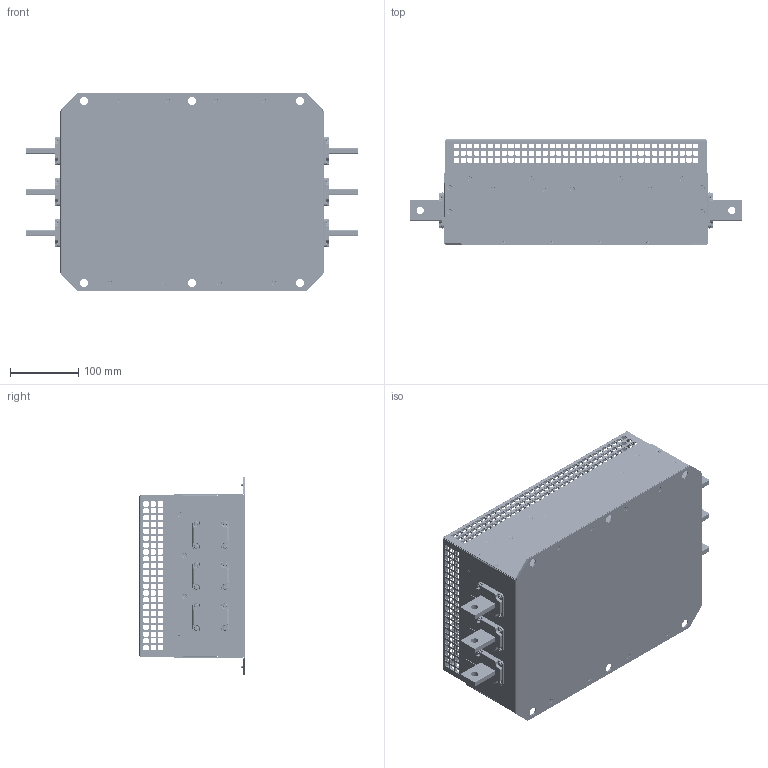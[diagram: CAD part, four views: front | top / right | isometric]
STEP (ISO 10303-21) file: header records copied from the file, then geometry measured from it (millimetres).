
FILE_DESCRIPTION((''),'2;1');
FILE_NAME('PRT0006','2021-01-20T',('EB4310'),(''),'CREO PARAMETRIC BY PTC INC, 2018220','CREO PARAMETRIC BY PTC INC, 2018220','');
FILE_SCHEMA(('AUTOMOTIVE_DESIGN { 1 0 10303 214 1 1 1 1 }'));
Products named in the file (1): PRT0006
Bounding box: 485 x 154.2 x 290 mm (x, y, z)
Volume: 544088.8 mm3; surface area: 790070.7 mm2
Topology: 1 solids, 47 shells, 12630 faces, 34620 edges, 22340 vertices
Faces by surface type: cylinder 5896, plane 5238, torus 1112, cone 280, bspline 104
Entity records: 516282 total; most frequent: CARTESIAN_POINT 76708, DIRECTION 72872, ORIENTED_EDGE 69240, PRESENTATION_STYLE_ASSIGNMENT 34621, STYLED_ITEM 34621, CURVE_STYLE 34620, EDGE_CURVE 34620, AXIS2_PLACEMENT_3D 26102
